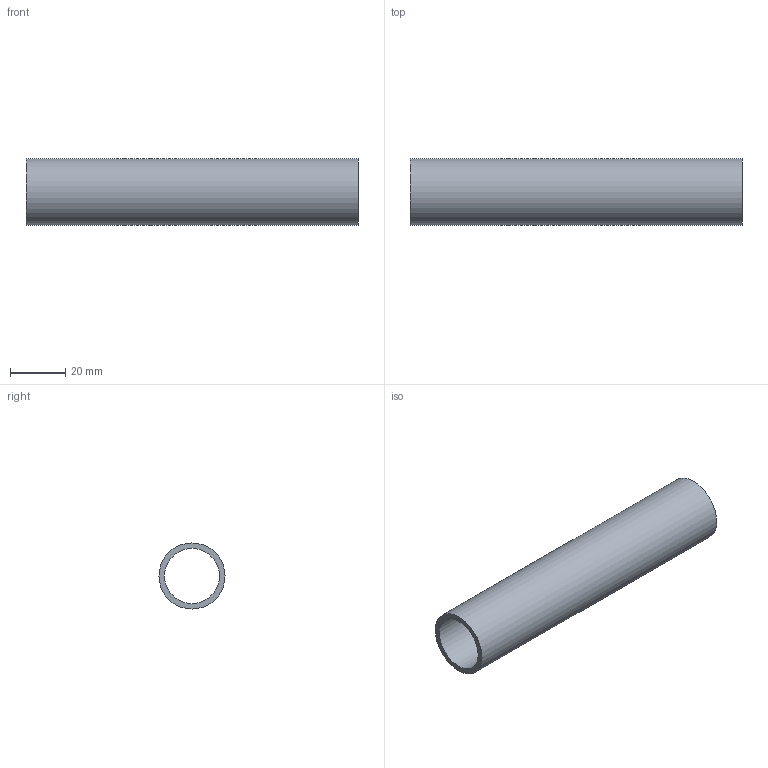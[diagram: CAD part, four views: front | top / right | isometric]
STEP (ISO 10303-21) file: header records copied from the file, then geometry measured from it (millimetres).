
FILE_DESCRIPTION(('FreeCAD Model'),'2;1');
FILE_NAME('/home/jwright/Documents/Mach_30/Shepard_v1.0_CAD/STEP_Files/Shepard_v1.0_Engine_Mount_Tube_MM01.step','2012-11-06T16:02:45',('FreeCAD'),( 'FreeCAD'),'Open CASCADE STEP processor 6.5','FreeCAD','Unknown');
FILE_SCHEMA(('AUTOMOTIVE_DESIGN_CC2 { 1 2 10303 214 -1 1 5 4 }'));
Length unit declared in the file: millimetre
Products named in the file (1): Cut
Bounding box: 120.4 x 24 x 24 mm (x, y, z)
Volume: 16642.9 mm3; surface area: 16919.4 mm2
Topology: 1 solids, 1 shells, 4 faces, 6 edges, 4 vertices
Faces by surface type: cylinder 2, plane 2
Full cylindrical faces by diameter (mm): 20 x1, 24 x1
Entity records: 197 total; most frequent: DIRECTION 32, CARTESIAN_POINT 27, ORIENTED_EDGE 12, PCURVE 12, DEFINITIONAL_REPRESENTATION 12, LINE 10, VECTOR 10, AXIS2_PLACEMENT_3D 9
